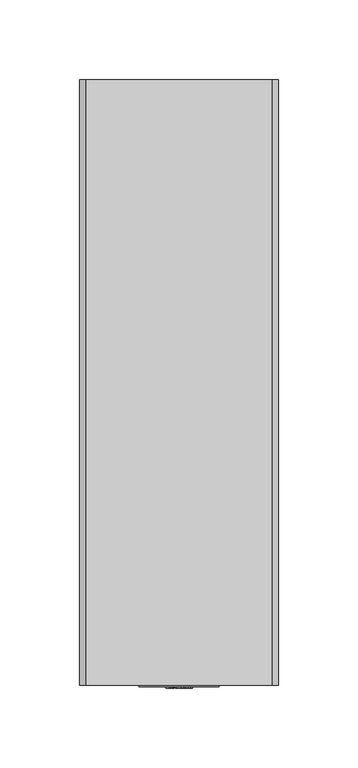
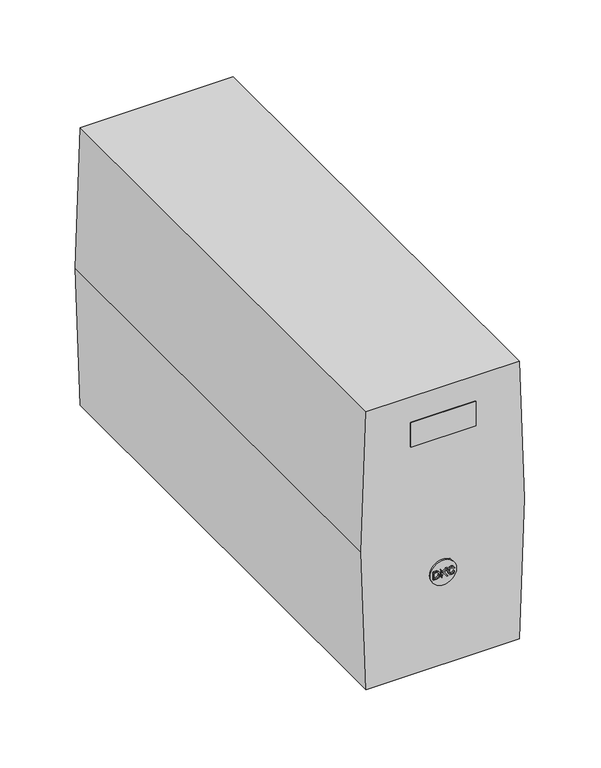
"""IFC4 building model written with IfcOpenShell, lengths in millimetres: proxy geometry, НВО_КНС_ИБПInfo_DKC : INFOLCD2000SI."""

import ifcopenshell
import ifcopenshell.guid

model = None  # the IFC model being written
_history = None  # IfcOwnerHistory: only IFC2X3 demands one
_inside = {}  # id of a spatial element -> (the spatial element, [elements in it])
_under = {}  # id of a project, library or spatial element -> (it, [spatial elements below it])
_declared = {}  # id of a project -> (the project, [libraries it declares])
_typed = {}  # id of a type object -> (the type object, [elements of that type])
_made_of = {}  # id of a material, layer set ... -> (it, [elements and type objects made of it])


def new_model(schema):
    """Start an empty IFC model of exactly this schema.

    Asked for "IFC4X3", IfcOpenShell would pick the latest addendum, in which some entities
    have other attributes; the version numbers below select the first issue.
    IFC2X3 requires an IfcOwnerHistory on every rooted entity: one is made here for all.
    """
    global model, _history
    if schema == "IFC4X3":
        model = ifcopenshell.file(schema_version=(4, 3, 0, 0))
    else:
        model = ifcopenshell.file(schema=schema)
    _inside.clear()
    _under.clear()
    _declared.clear()
    _typed.clear()
    _made_of.clear()
    _history = None
    if model.schema == "IFC2X3":
        org = make("IfcOrganization", Name="unknown")
        user = make(
            "IfcPersonAndOrganization",
            ThePerson=make("IfcPerson", FamilyName="unknown"),
            TheOrganization=org,
        )
        app = make(
            "IfcApplication",
            ApplicationDeveloper=org,
            Version="unknown",
            ApplicationFullName="unknown",
            ApplicationIdentifier="unknown",
        )
        _history = make(
            "IfcOwnerHistory",
            OwningUser=user,
            OwningApplication=app,
            ChangeAction="ADDED",
            CreationDate=0,
        )
    return model


def make(cls, **values):
    """One entity of the class cls with the attributes given. An attribute that is None is left unset."""
    return model.create_entity(
        cls, **{name: value for name, value in values.items() if value is not None}
    )


def rooted(cls, **values):
    """An entity with a GlobalId (a new one), such as an element, a storey or a relation."""
    return make(cls, GlobalId=ifcopenshell.guid.new(), OwnerHistory=_history, **values)


def si_unit(unit_type, name, prefix=None):
    """IfcSIUnit, for example si_unit("LENGTHUNIT", "METRE", prefix="MILLI")."""
    return make("IfcSIUnit", UnitType=unit_type, Prefix=prefix, Name=name)


def assignment(units):
    """IfcUnitAssignment: the units of a project."""
    return None if units is None else make("IfcUnitAssignment", Units=units)


def point(xyz):
    """IfcCartesianPoint."""
    return None if xyz is None else make("IfcCartesianPoint", Coordinates=xyz)


def direction(xyz):
    """IfcDirection."""
    return None if xyz is None else make("IfcDirection", DirectionRatios=xyz)


def frame(location, z_axis=None, x_axis=None):
    """IfcAxis2Placement3D, a coordinate frame: its origin and axes. An axis left out is left unset."""
    return make(
        "IfcAxis2Placement3D",
        Location=point(location),
        Axis=direction(z_axis),
        RefDirection=direction(x_axis),
    )


def frame_2d(location, x_axis=None):
    """IfcAxis2Placement2D, a coordinate frame in the plane: its origin and x axis."""
    return make(
        "IfcAxis2Placement2D", Location=point(location), RefDirection=direction(x_axis)
    )


def origin():
    """The frame at (0, 0, 0) with its axes left unset."""
    return frame((0.0, 0.0, 0.0))


def place(relative_to, where):
    """IfcLocalPlacement: puts the frame where relative to a parent placement (None: the world)."""
    return make(
        "IfcLocalPlacement", PlacementRelTo=relative_to, RelativePlacement=where
    )


def context(
    kind, dimensions, precision=None, world=None, true_north=None, identifier=None
):
    """IfcGeometricRepresentationContext, for example the 3D "Model" context."""
    return make(
        "IfcGeometricRepresentationContext",
        ContextIdentifier=identifier,
        ContextType=kind,
        CoordinateSpaceDimension=dimensions,
        Precision=precision,
        WorldCoordinateSystem=world,
        TrueNorth=true_north,
    )


def project(units=None, contexts=None):
    """IfcProject with its units and contexts."""
    return rooted(
        "IfcProject",
        Name="project",
        RepresentationContexts=contexts,
        UnitsInContext=assignment(units),
    )


def spatial(cls, under=None, at=None, **own):
    """A site, building, storey or space (cls), placed at a placement, below another one or the project."""
    s = rooted(cls, ObjectPlacement=at, **own)
    if under is not None:
        _under.setdefault(under.id(), (under, []))[1].append(s)
    return s


def polyline(points):
    """IfcPolyline through the points."""
    return make("IfcPolyline", Points=[point(p) for p in points])


def circle_curve(where, radius):
    """IfcCircle in the frame where."""
    return make("IfcCircle", Position=where, Radius=radius)


def trimmed(basis, trim1, trim2, sense, master):
    """IfcTrimmedCurve: the piece of a basis curve between two trims."""
    return make(
        "IfcTrimmedCurve",
        BasisCurve=basis,
        Trim1=trim1,
        Trim2=trim2,
        SenseAgreement=sense,
        MasterRepresentation=master,
    )


def segment(curve, same_sense, transition):
    """IfcCompositeCurveSegment."""
    return make(
        "IfcCompositeCurveSegment",
        Transition=transition,
        SameSense=same_sense,
        ParentCurve=curve,
    )


def composite_curve(segments, self_intersect=None):
    """IfcCompositeCurve: segments joined end to end."""
    return make("IfcCompositeCurve", Segments=segments, SelfIntersect=self_intersect)


def outline(outer, holes=None, kind="AREA"):
    """IfcArbitraryClosedProfileDef: a profile drawn as a closed curve; with holes, ...WithVoids."""
    if holes is None:
        return make("IfcArbitraryClosedProfileDef", ProfileType=kind, OuterCurve=outer)
    return make(
        "IfcArbitraryProfileDefWithVoids",
        ProfileType=kind,
        OuterCurve=outer,
        InnerCurves=holes,
    )


def extrude(swept, where, along, depth):
    """IfcExtrudedAreaSolid: the profile swept, set in the frame where, extruded along a direction by depth."""
    return make(
        "IfcExtrudedAreaSolid",
        SweptArea=swept,
        Position=where,
        ExtrudedDirection=direction(along),
        Depth=depth,
    )


def shape(context_of_items, identifier, shape_type, items):
    """IfcShapeRepresentation: the items that make up one representation, for example the "Body"."""
    return make(
        "IfcShapeRepresentation",
        ContextOfItems=context_of_items,
        RepresentationIdentifier=identifier,
        RepresentationType=shape_type,
        Items=items,
    )


def source(mapping_origin, context_of_items, identifier, shape_type, items):
    """IfcRepresentationMap: a shape defined once, which mapped items show again and again."""
    return make(
        "IfcRepresentationMap",
        MappingOrigin=mapping_origin,
        MappedRepresentation=shape(context_of_items, identifier, shape_type, items),
    )


def transform(
    local_origin,
    x_axis=None,
    y_axis=None,
    z_axis=None,
    scale=None,
    scale2=None,
    scale3=None,
    uniform=True,
):
    """IfcCartesianTransformationOperator3D, or its non-uniform kind. x_axis, y_axis, z_axis: its Axis1, 2, 3."""
    if uniform:
        return make(
            "IfcCartesianTransformationOperator3D",
            Axis1=direction(x_axis),
            Axis2=direction(y_axis),
            LocalOrigin=point(local_origin),
            Scale=scale,
            Axis3=direction(z_axis),
        )
    return make(
        "IfcCartesianTransformationOperator3DnonUniform",
        Axis1=direction(x_axis),
        Axis2=direction(y_axis),
        LocalOrigin=point(local_origin),
        Scale=scale,
        Axis3=direction(z_axis),
        Scale2=scale2,
        Scale3=scale3,
    )


def mapped(mapping_source, mapping_target):
    """IfcMappedItem: shows the shape of a source again, moved by a transform."""
    return make(
        "IfcMappedItem", MappingSource=mapping_source, MappingTarget=mapping_target
    )


def made_of(thing, what):
    """Note that an element or type object is made of a material, layer set ...; save() writes the relation."""
    if what is not None:
        _made_of.setdefault(what.id(), (what, []))[1].append(thing)
    return thing


def element(
    cls,
    number,
    at=None,
    inside=None,
    cuts=None,
    type_object=None,
    material=None,
    context=None,
    identifier="Body",
    shape_type=None,
    held_by="IfcProductDefinitionShape",
    body=None,
    shapes=None,
    **own,
):
    """One element of the class cls, such as IfcWall. Its Tag is "e" and its number.

    at: its placement. inside: the storey or other place that contains it. cuts: it is an
    opening in that element (IfcRelVoidsElement). A single representation is given by context,
    identifier, shape_type and body (its items); several are given by shapes. held_by: the class
    of the entity that holds the representations. save() writes the other relations.
    """
    e = rooted(cls, Tag="e%d" % number, ObjectPlacement=at, **own)
    if body is not None:
        shapes = [shape(context, identifier, shape_type, body)]
    if shapes is not None:
        e.Representation = make(held_by, Representations=shapes)
    if inside is not None:
        _inside.setdefault(inside.id(), (inside, []))[1].append(e)
    if cuts is not None:
        rooted(
            "IfcRelVoidsElement", RelatingBuildingElement=cuts, RelatedOpeningElement=e
        )
    if type_object is not None:
        _typed.setdefault(type_object.id(), (type_object, []))[1].append(e)
    return made_of(e, material)


def aggregate(whole, parts):
    """IfcRelAggregates: a whole, such as a stair, and the parts it consists of."""
    return rooted("IfcRelAggregates", RelatingObject=whole, RelatedObjects=parts)


def save(model, path):
    """Write the relations noted so far, then the file.

    IfcRelAggregates (storeys below a building ...), IfcRelContainedInSpatialStructure (elements
    in a storey), IfcRelDefinesByType, IfcRelAssociatesMaterial and IfcRelDeclares: one each for
    every whole, place, type object, material and project.
    """
    for whole, parts in _under.values():
        aggregate(whole, parts)
    for where, things in _inside.values():
        rooted(
            "IfcRelContainedInSpatialStructure",
            RelatedElements=things,
            RelatingStructure=where,
        )
    for kind, things in _typed.values():
        rooted("IfcRelDefinesByType", RelatedObjects=things, RelatingType=kind)
    for what, things in _made_of.values():
        rooted("IfcRelAssociatesMaterial", RelatedObjects=things, RelatingMaterial=what)
    for by, libraries in _declared.values():
        rooted("IfcRelDeclares", RelatingContext=by, RelatedDefinitions=libraries)
    model.write(path)


def electrical_equipment_7d37a404(model_context):
    return source(origin(), model_context, "Body", "SweptSolid", [
        extrude(outline(polyline([(72.0, -8.1463789), (72.0, -5.967046), (72.103007, -4.9980448), (72.9520786, -3.7273804), (73.829845, -3.3153525), (75.0460629, -3.154956), (76.4793312, -3.391872), (77.5094008, -4.1055631), (77.9405585, -4.9914229), (78.0273786, -6.0671099), (78.0273786, -8.1463789), (72.0, -8.1463789)]), holes=[polyline([(72.7534223, -7.3929566), (77.2739563, -7.3929566), (77.2739563, -6.0803536), (77.153291, -5.0120243), (76.4852173, -4.2299072), (75.0578351, -3.9083783), (73.9181367, -4.0724537), (72.8623154, -5.0900153), (72.7534223, -6.0597522), (72.7534223, -7.3929566)])]), frame((0.0, -2.0, 0.0), z_axis=(0.0, 1.0, 0.0), x_axis=(0.0, 0.0, 1.0)), (0.0, 0.0, 1.0), 6.0),
        extrude(outline(polyline([(72.0, -1.7422891), (74.0719114, -1.365578), (75.0401768, -0.3502237), (72.0, 1.9512461), (72.0, 2.8724226), (75.5493255, 0.183941), (78.0273786, 2.7782448), (78.0273786, 1.7246308), (75.076965, -1.365578), (78.0273786, -2.1190003), (72.0, -1.7422891)])), frame((0.0, -2.0, 0.0), z_axis=(0.0, 1.0, 0.0), x_axis=(0.0, 0.0, 1.0)), (0.0, 0.0, 1.0), 6.0),
        extrude(outline(polyline([(74.1425447, 7.6754899), (73.0330126, 7.036111), (72.6592445, 5.8831689), (72.9336845, 4.8435343), (73.7628905, 4.1357294), (75.0607782, 3.9083783), (76.180611, 4.1004127), (77.0458694, 4.7662791), (77.3681341, 5.944973), (77.0775073, 6.9632704), (76.3307068, 8.3347345), (77.652139, 7.4834555), (78.1215564, 5.9744036), (77.7588248, 4.5264201), (76.6971173, 3.5118015), (75.0593067, 3.154956), (73.4479835, 3.4705987), (72.3016632, 4.3903037), (71.9058222, 5.9582168), (72.4289504, 7.5356948), (74.1425447, 7.6754899)])), frame((0.0, -2.0, 0.0), z_axis=(0.0, 1.0, 0.0), x_axis=(0.0, 0.0, 1.0)), (0.0, 0.0, 1.0), 6.0),
        extrude(outline(composite_curve([segment(trimmed(circle_curve(frame_2d((75.0, 0.0)), 10.0), [point((75.0, -10.0))], [point((75.0, 10.0))], False, "CARTESIAN"), True, "CONTINUOUS"), segment(trimmed(circle_curve(frame_2d((75.0, 0.0)), 10.0), [point((75.0, 10.0))], [point((75.0, -10.0))], False, "CARTESIAN"), True, "CONTINUOUS")], self_intersect=False)), frame((0.0, -1.0, 0.0), z_axis=(0.0, 1.0, 0.0), x_axis=(0.0, 0.0, 1.0)), (0.0, 0.0, 1.0), 10.0),
        extrude(outline(polyline([(0.0, -58.7634777), (0.0, 58.7634777), (112.5, 62.5), (225.0, 58.7634777), (225.0, -58.7634777), (112.5, -62.5), (0.0, -58.7634777)])), frame((0.0, 0.0, 0.0), z_axis=(0.0, 1.0, 0.0), x_axis=(0.0, 0.0, 1.0)), (0.0, 0.0, 1.0), 380.0),
        extrude(outline(polyline([(25.0, -1.0), (-25.0, -1.0), (-25.0, 0.0), (25.0, 0.0), (25.0, -1.0)])), frame((0.0, 0.0, 185.0), z_axis=(0.0, 0.0, 1.0), x_axis=(1.0, 0.0, 0.0)), (0.0, 0.0, 1.0), 20.0),
    ])


if __name__ == "__main__":
    model = new_model("IFC4")
    model_context = context("Model", 3, world=origin())
    ifc_project = project(units=[si_unit("LENGTHUNIT", "METRE", prefix="MILLI")], contexts=[model_context])
    site = spatial("IfcSite", under=ifc_project)
    building = spatial("IfcBuilding", under=site)
    placement = place(None, origin())
    electrical_equipment_shape = electrical_equipment_7d37a404(model_context)
    element("IfcBuildingElementProxy", 1, Name="НВО_КНС_ИБПInfo_DKC : INFOLCD2000SI", ObjectType="НВО_КНС_ИБПInfo_DKC : INFOLCD2000SI", at=placement, inside=building, context=model_context, shape_type="MappedRepresentation", body=[
        mapped(electrical_equipment_shape, transform((0.0, 0.0, 0.0), x_axis=(1.0, 0.0, 0.0), y_axis=(0.0, 1.0, 0.0), z_axis=(0.0, 0.0, 1.0))),
    ])
    save(model, "model.ifc")
